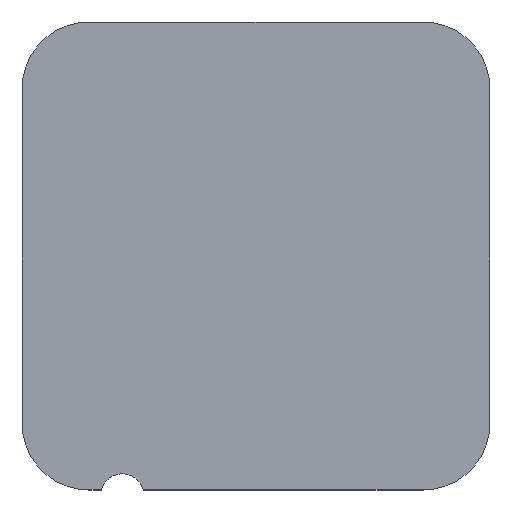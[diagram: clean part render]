
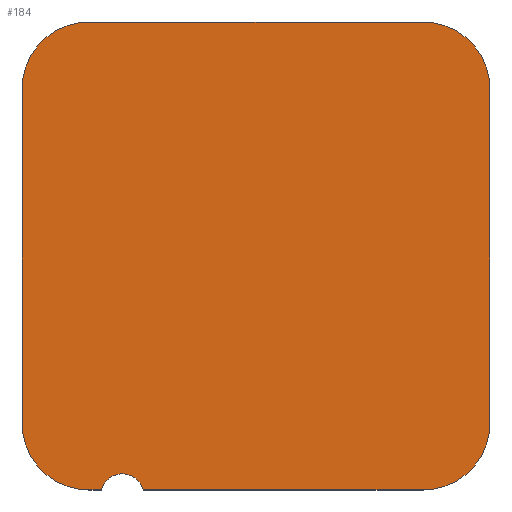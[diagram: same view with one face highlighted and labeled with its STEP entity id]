
A CAD part, top view. The second image highlights one B-rep face of the part: STEP entity #184.
In plain terms, the highlighted planar face has unit normal (0, 0, 1).
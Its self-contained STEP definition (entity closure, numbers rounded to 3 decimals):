
#50 = VERTEX_POINT('',#51);
#51 = CARTESIAN_POINT('',(21.,85.5,17.85));
#57 = EDGE_CURVE('',#50,#58,#60,.T.);
#58 = VERTEX_POINT('',#59);
#59 = CARTESIAN_POINT('',(22.115,85.5,17.85));
#60 = LINE('',#61,#62);
#61 = CARTESIAN_POINT('',(21.,85.5,17.85));
#62 = VECTOR('',#63,1.);
#63 = DIRECTION('',(1.,0.,0.));
#164 = VERTEX_POINT('',#165);
#165 = CARTESIAN_POINT('',(25.885,85.5,17.85));
#173 = EDGE_CURVE('',#164,#58,#174,.T.);
#174 = CIRCLE('',#175,1.95);
#175 = AXIS2_PLACEMENT_3D('',#176,#177,#178);
#176 = CARTESIAN_POINT('',(24.,85.,17.85));
#177 = DIRECTION('',(0.,0.,1.));
#178 = DIRECTION('',(1.,0.,-0.));
#184 = ADVANCED_FACE('',(#185),#255,.T.);
#185 = FACE_BOUND('',#186,.T.);
#186 = EDGE_LOOP('',(#187,#196,#197,#198,#206,#215,#223,#232,#240,#249)
  );
#187 = ORIENTED_EDGE('',*,*,#188,.T.);
#188 = EDGE_CURVE('',#189,#50,#191,.T.);
#189 = VERTEX_POINT('',#190);
#190 = CARTESIAN_POINT('',(15.,91.5,17.85));
#191 = CIRCLE('',#192,6.);
#192 = AXIS2_PLACEMENT_3D('',#193,#194,#195);
#193 = CARTESIAN_POINT('',(21.,91.5,17.85));
#194 = DIRECTION('',(0.,0.,1.));
#195 = DIRECTION('',(-1.,0.,0.));
#196 = ORIENTED_EDGE('',*,*,#57,.T.);
#197 = ORIENTED_EDGE('',*,*,#173,.F.);
#198 = ORIENTED_EDGE('',*,*,#199,.T.);
#199 = EDGE_CURVE('',#164,#200,#202,.T.);
#200 = VERTEX_POINT('',#201);
#201 = CARTESIAN_POINT('',(51.,85.5,17.85));
#202 = LINE('',#203,#204);
#203 = CARTESIAN_POINT('',(21.,85.5,17.85));
#204 = VECTOR('',#205,1.);
#205 = DIRECTION('',(1.,0.,0.));
#206 = ORIENTED_EDGE('',*,*,#207,.T.);
#207 = EDGE_CURVE('',#200,#208,#210,.T.);
#208 = VERTEX_POINT('',#209);
#209 = CARTESIAN_POINT('',(57.,91.5,17.85));
#210 = CIRCLE('',#211,6.);
#211 = AXIS2_PLACEMENT_3D('',#212,#213,#214);
#212 = CARTESIAN_POINT('',(51.,91.5,17.85));
#213 = DIRECTION('',(0.,0.,1.));
#214 = DIRECTION('',(0.,-1.,0.));
#215 = ORIENTED_EDGE('',*,*,#216,.T.);
#216 = EDGE_CURVE('',#208,#217,#219,.T.);
#217 = VERTEX_POINT('',#218);
#218 = CARTESIAN_POINT('',(57.,121.5,17.85));
#219 = LINE('',#220,#221);
#220 = CARTESIAN_POINT('',(57.,91.5,17.85));
#221 = VECTOR('',#222,1.);
#222 = DIRECTION('',(0.,1.,0.));
#223 = ORIENTED_EDGE('',*,*,#224,.T.);
#224 = EDGE_CURVE('',#217,#225,#227,.T.);
#225 = VERTEX_POINT('',#226);
#226 = CARTESIAN_POINT('',(51.,127.5,17.85));
#227 = CIRCLE('',#228,6.);
#228 = AXIS2_PLACEMENT_3D('',#229,#230,#231);
#229 = CARTESIAN_POINT('',(51.,121.5,17.85));
#230 = DIRECTION('',(-0.,0.,1.));
#231 = DIRECTION('',(1.,0.,0.));
#232 = ORIENTED_EDGE('',*,*,#233,.T.);
#233 = EDGE_CURVE('',#225,#234,#236,.T.);
#234 = VERTEX_POINT('',#235);
#235 = CARTESIAN_POINT('',(21.,127.5,17.85));
#236 = LINE('',#237,#238);
#237 = CARTESIAN_POINT('',(51.,127.5,17.85));
#238 = VECTOR('',#239,1.);
#239 = DIRECTION('',(-1.,0.,0.));
#240 = ORIENTED_EDGE('',*,*,#241,.T.);
#241 = EDGE_CURVE('',#234,#242,#244,.T.);
#242 = VERTEX_POINT('',#243);
#243 = CARTESIAN_POINT('',(15.,121.5,17.85));
#244 = CIRCLE('',#245,6.);
#245 = AXIS2_PLACEMENT_3D('',#246,#247,#248);
#246 = CARTESIAN_POINT('',(21.,121.5,17.85));
#247 = DIRECTION('',(0.,-0.,1.));
#248 = DIRECTION('',(0.,1.,0.));
#249 = ORIENTED_EDGE('',*,*,#250,.T.);
#250 = EDGE_CURVE('',#242,#189,#251,.T.);
#251 = LINE('',#252,#253);
#252 = CARTESIAN_POINT('',(15.,121.5,17.85));
#253 = VECTOR('',#254,1.);
#254 = DIRECTION('',(0.,-1.,0.));
#255 = PLANE('',#256);
#256 = AXIS2_PLACEMENT_3D('',#257,#258,#259);
#257 = CARTESIAN_POINT('',(36.,106.5,17.85));
#258 = DIRECTION('',(0.,0.,1.));
#259 = DIRECTION('',(1.,0.,0.));
